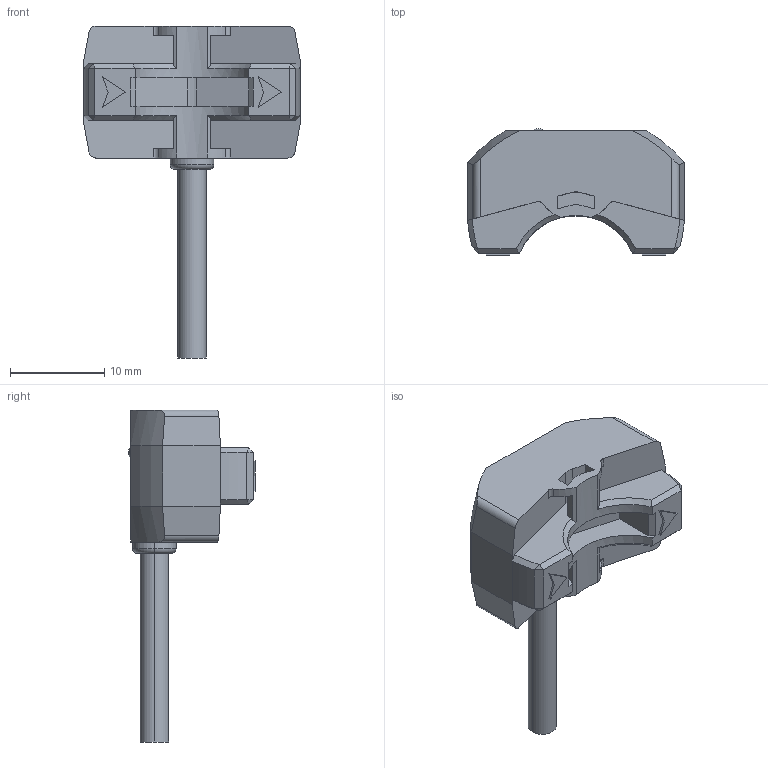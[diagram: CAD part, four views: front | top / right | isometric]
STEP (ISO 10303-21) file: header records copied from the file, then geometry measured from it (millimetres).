
FILE_DESCRIPTION (( 'STEP AP203' ), '1' );
FILE_NAME ('BL13-TDT_BL13-TDT-P_BL13-TDT-S_BL13-TDT-P-S.STEP', '2018-07-19T02:42:01', ( 'Registered User' ), ( 'Microsoft Corporation' ), 'SwSTEP 2.0', 'SolidWorks 2015', '' );
FILE_SCHEMA (( 'CONFIG_CONTROL_DESIGN' ));
Length unit declared in the file: millimetre
Products named in the file (1): BL13-TDT_BL13-TDT-P_BL13-TDT-S_BL13-TDT-P-S
Bounding box: 23 x 13.42 x 35.2 mm (x, y, z)
Volume: 2874.5 mm3; surface area: 1757.6 mm2
Topology: 1 solids, 1 shells, 137 faces, 405 edges, 284 vertices
Faces by surface type: plane 88, cylinder 33, cone 12, sphere 2, torus 2
Entity records: 4844 total; most frequent: CARTESIAN_POINT 1093, ORIENTED_EDGE 810, DIRECTION 699, EDGE_CURVE 405, VERTEX_POINT 284, VECTOR 259, LINE 259, AXIS2_PLACEMENT_3D 220
